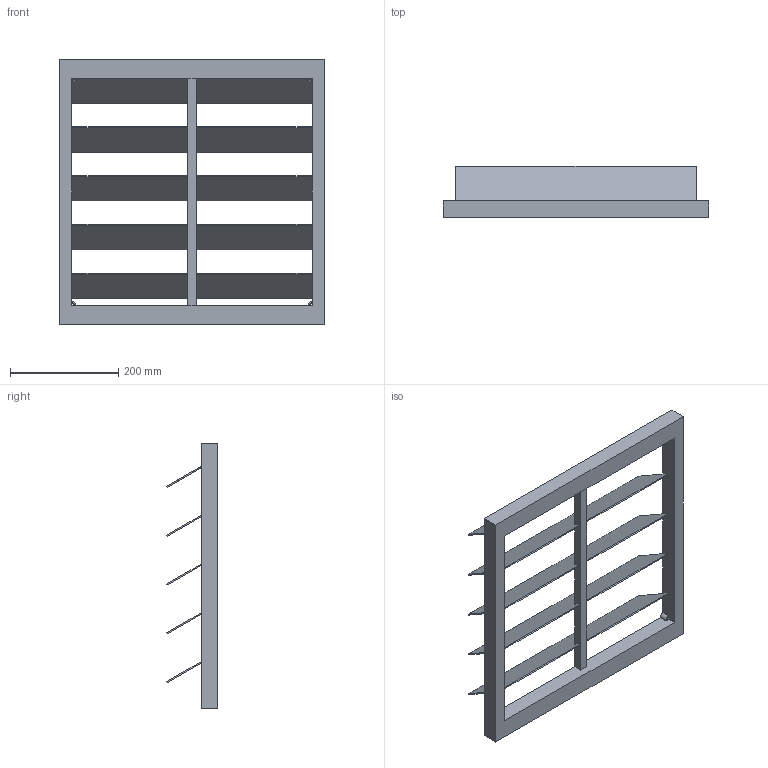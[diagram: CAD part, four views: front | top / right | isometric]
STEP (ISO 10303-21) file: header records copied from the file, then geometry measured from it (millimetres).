
FILE_DESCRIPTION(/* description */ (''),/* implementation_level */ '2;1');
FILE_NAME(/* name */ 'Z:\Output\VK 450-00763-001.stp',/* time_stamp */ '2017-06-08T19:23:19+02:00',/* author */ ('pareshmistry'),/* organization */ (''),/* preprocessor_version */ 'ST-DEVELOPER v16.5',/* originating_system */ 'Autodesk Inventor 2017',/* authorisation */ '');
FILE_SCHEMA (('AUTOMOTIVE_DESIGN { 1 0 10303 214 3 1 1 }'));
Length unit declared in the file: millimetre
Products named in the file (1): VK-1
Bounding box: 490 x 93.89 x 490 mm (x, y, z)
Volume: 2156839.1 mm3; surface area: 649411.7 mm2
Topology: 1 solids, 1 shells, 88 faces, 270 edges, 162 vertices
Faces by surface type: plane 78, cylinder 10
Full cylindrical faces by diameter (mm): 8 x4
Entity records: 2946 total; most frequent: ORIENTED_EDGE 528, CARTESIAN_POINT 509, DIRECTION 470, EDGE_CURVE 262, LINE 232, VECTOR 232, VERTEX_POINT 158, AXIS2_PLACEMENT_3D 119
